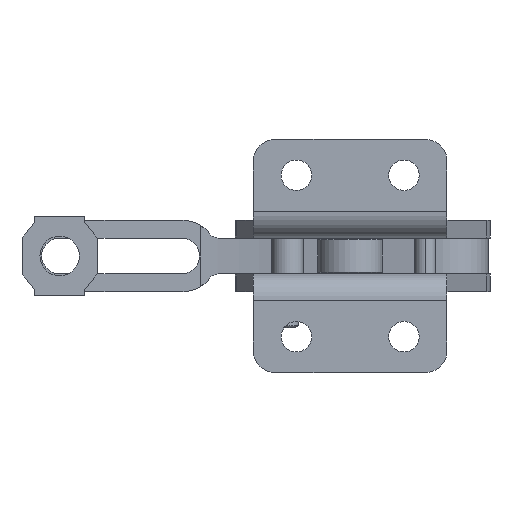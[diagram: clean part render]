
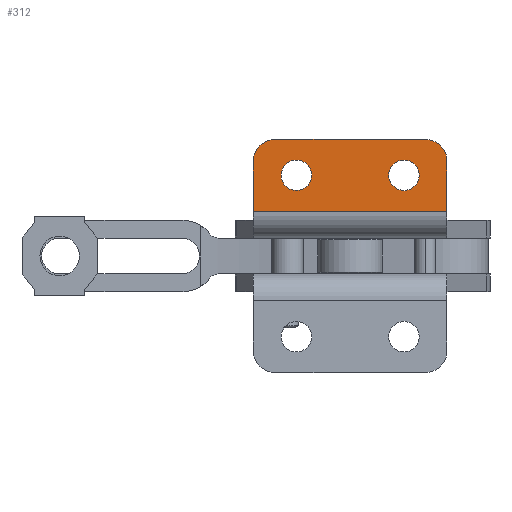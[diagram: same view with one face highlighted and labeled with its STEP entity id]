
A CAD part, front view. The second image highlights one B-rep face of the part: STEP entity #312.
In plain terms, the highlighted planar face has unit normal (0, -1, 0).
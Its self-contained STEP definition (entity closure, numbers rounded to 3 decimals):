
#312 = ADVANCED_FACE( '', ( #599, #600, #601 ), #602, .F. );
#599 = FACE_BOUND( '', #1206, .T. );
#600 = FACE_BOUND( '', #1207, .T. );
#601 = FACE_OUTER_BOUND( '', #1208, .T. );
#602 = PLANE( '', #1209 );
#1206 = EDGE_LOOP( '', ( #1997 ) );
#1207 = EDGE_LOOP( '', ( #1998 ) );
#1208 = EDGE_LOOP( '', ( #1999, #2000, #2001, #2002, #2003, #2004 ) );
#1209 = AXIS2_PLACEMENT_3D( '', #2005, #2006, #2007 );
#1997 = ORIENTED_EDGE( '', *, *, #3817, .T. );
#1998 = ORIENTED_EDGE( '', *, *, #3818, .T. );
#1999 = ORIENTED_EDGE( '', *, *, #3819, .F. );
#2000 = ORIENTED_EDGE( '', *, *, #3820, .F. );
#2001 = ORIENTED_EDGE( '', *, *, #3793, .F. );
#2002 = ORIENTED_EDGE( '', *, *, #3821, .F. );
#2003 = ORIENTED_EDGE( '', *, *, #3822, .T. );
#2004 = ORIENTED_EDGE( '', *, *, #3823, .F. );
#2005 = CARTESIAN_POINT( '', ( 5., 0., 32.5 ) );
#2006 = DIRECTION( '', ( 0., 1., 0. ) );
#2007 = DIRECTION( '', ( 0., 0., 1. ) );
#3793 = EDGE_CURVE( '', #4446, #4447, #4448, .T. );
#3817 = EDGE_CURVE( '', #4489, #4489, #4490, .T. );
#3818 = EDGE_CURVE( '', #4491, #4491, #4492, .T. );
#3819 = EDGE_CURVE( '', #4493, #4494, #4495, .T. );
#3820 = EDGE_CURVE( '', #4447, #4493, #4496, .T. );
#3821 = EDGE_CURVE( '', #4497, #4446, #4498, .T. );
#3822 = EDGE_CURVE( '', #4497, #4499, #4500, .T. );
#3823 = EDGE_CURVE( '', #4494, #4499, #4501, .T. );
#4446 = VERTEX_POINT( '', #5638 );
#4447 = VERTEX_POINT( '', #5639 );
#4448 = LINE( '', #5640, #5641 );
#4489 = VERTEX_POINT( '', #5701 );
#4490 = CIRCLE( '', #5702, 4.25 );
#4491 = VERTEX_POINT( '', #5703 );
#4492 = CIRCLE( '', #5704, 4.25 );
#4493 = VERTEX_POINT( '', #5705 );
#4494 = VERTEX_POINT( '', #5706 );
#4495 = LINE( '', #5707, #5708 );
#4496 = CIRCLE( '', #5709, 6. );
#4497 = VERTEX_POINT( '', #5710 );
#4498 = CIRCLE( '', #5711, 6. );
#4499 = VERTEX_POINT( '', #5712 );
#4500 = LINE( '', #5713, #5714 );
#4501 = LINE( '', #5715, #5716 );
#5638 = CARTESIAN_POINT( '', ( 11., 0., 32.5 ) );
#5639 = CARTESIAN_POINT( '', ( 53., 0., 32.5 ) );
#5640 = CARTESIAN_POINT( '', ( 5., 0., 32.5 ) );
#5641 = VECTOR( '', #7566, 1000. );
#5701 = CARTESIAN_POINT( '', ( 51.25, 0., 22.5 ) );
#5702 = AXIS2_PLACEMENT_3D( '', #7598, #7599, #7600 );
#5703 = CARTESIAN_POINT( '', ( 21.25, 0., 22.5 ) );
#5704 = AXIS2_PLACEMENT_3D( '', #7601, #7602, #7603 );
#5705 = CARTESIAN_POINT( '', ( 59., 0., 26.5 ) );
#5706 = CARTESIAN_POINT( '', ( 59., 0., 12.5 ) );
#5707 = CARTESIAN_POINT( '', ( 59., 0., 32.5 ) );
#5708 = VECTOR( '', #7604, 1000. );
#5709 = AXIS2_PLACEMENT_3D( '', #7605, #7606, #7607 );
#5710 = CARTESIAN_POINT( '', ( 5., 0., 26.5 ) );
#5711 = AXIS2_PLACEMENT_3D( '', #7608, #7609, #7610 );
#5712 = CARTESIAN_POINT( '', ( 5., 0., 12.5 ) );
#5713 = CARTESIAN_POINT( '', ( 5., 0., 32.5 ) );
#5714 = VECTOR( '', #7611, 1000. );
#5715 = CARTESIAN_POINT( '', ( 100., 0., 12.5 ) );
#5716 = VECTOR( '', #7612, 1000. );
#7566 = DIRECTION( '', ( 1., 0., 0. ) );
#7598 = CARTESIAN_POINT( '', ( 47., 0., 22.5 ) );
#7599 = DIRECTION( '', ( 0., 1., 0. ) );
#7600 = DIRECTION( '', ( 1., 0., 0. ) );
#7601 = CARTESIAN_POINT( '', ( 17., 0., 22.5 ) );
#7602 = DIRECTION( '', ( 0., 1., 0. ) );
#7603 = DIRECTION( '', ( 1., 0., 0. ) );
#7604 = DIRECTION( '', ( 0., 0., -1. ) );
#7605 = CARTESIAN_POINT( '', ( 53., 0., 26.5 ) );
#7606 = DIRECTION( '', ( 0., 1., 0. ) );
#7607 = DIRECTION( '', ( 1., 0., 0. ) );
#7608 = CARTESIAN_POINT( '', ( 11., 0., 26.5 ) );
#7609 = DIRECTION( '', ( 0., 1., 0. ) );
#7610 = DIRECTION( '', ( 1., 0., 0. ) );
#7611 = DIRECTION( '', ( 0., 0., -1. ) );
#7612 = DIRECTION( '', ( -1., 0., 0. ) );
